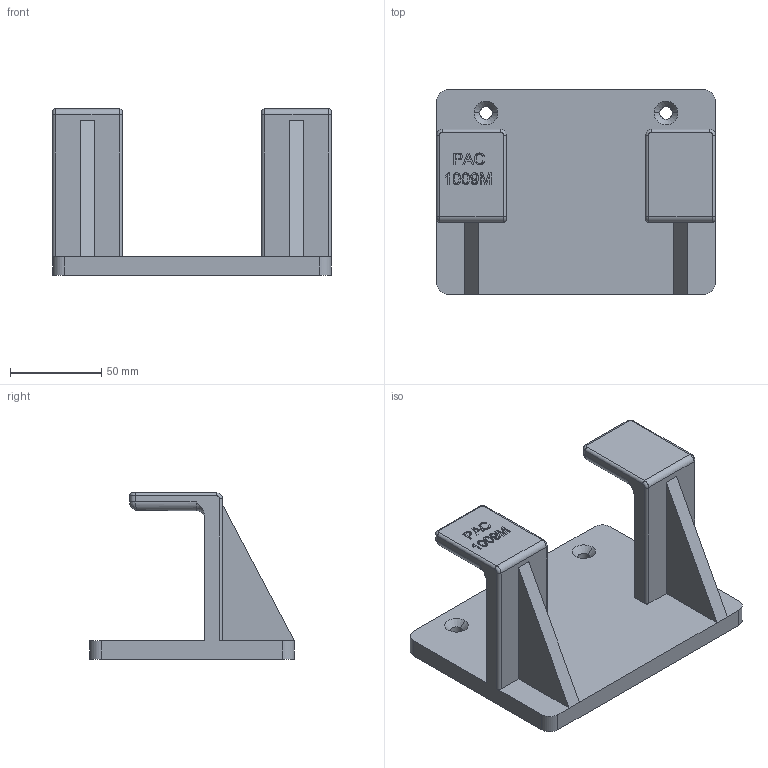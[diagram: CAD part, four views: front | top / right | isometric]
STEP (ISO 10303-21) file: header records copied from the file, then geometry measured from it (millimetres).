
FILE_DESCRIPTION (( 'STEP AP203' ), '1' );
FILE_NAME ('1009.STEP', '2010-08-19T17:21:20', ( '' ), ( '' ), 'SwSTEP 2.0', 'SolidWorks 2010', '' );
FILE_SCHEMA (( 'CONFIG_CONTROL_DESIGN' ));
Length unit declared in the file: inch
Products named in the file (1): 1009
Bounding box: 152.4 x 111.76 x 91.06 mm (x, y, z)
Volume: 283242.9 mm3; surface area: 66985.6 mm2
Topology: 1 solids, 1 shells, 184 faces, 471 edges, 298 vertices
Faces by surface type: plane 79, bspline 57, cylinder 32, torus 12, cone 4
Entity records: 11490 total; most frequent: CARTESIAN_POINT 7325, ORIENTED_EDGE 934, DIRECTION 677, EDGE_CURVE 467, VERTEX_POINT 298, LINE 277, VECTOR 277, EDGE_LOOP 201
